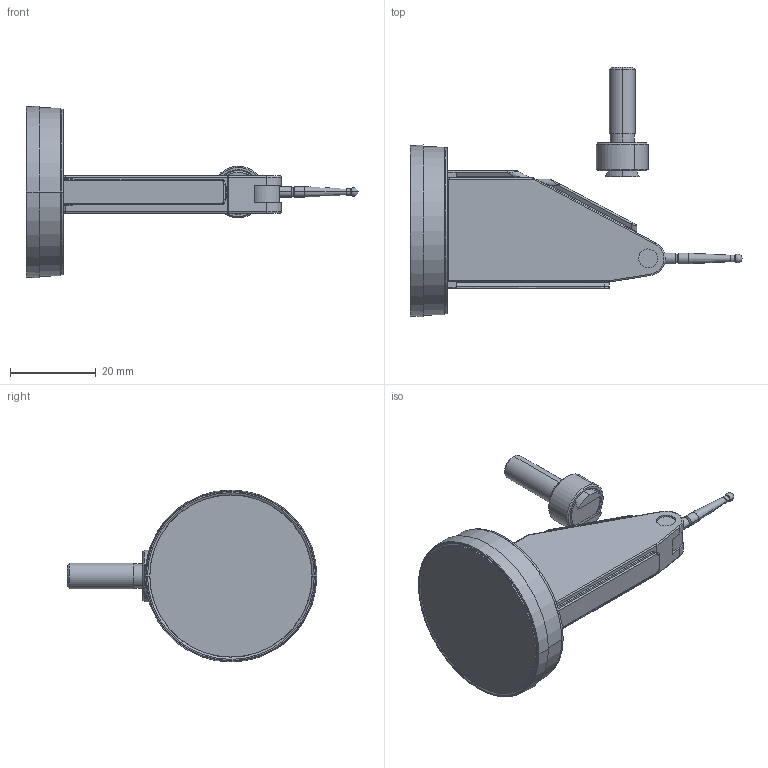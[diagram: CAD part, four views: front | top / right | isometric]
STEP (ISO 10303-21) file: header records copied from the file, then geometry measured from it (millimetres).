
FILE_DESCRIPTION(('Creo Elements/Direct Modeling STEP Export'),'2;1');
FILE_NAME('513-454-10H_TI-213HX.stp','2020-03-26T13:19:50',(''),(''),'Creo Elements/Direct Modeling STEP processor for AP214 (Solid Model)','Creo Elements/Direct Modeling 18.1I 13-Aug-2016 (C) Parametric Technology GmbH','');
FILE_SCHEMA(('AUTOMOTIVE_DESIGN { 1 0 10303 214 1 1 1 1 }'));
Length unit declared in the file: millimetre
Products named in the file (4): 513-454-10; nut_190322; stem_21CAB103; 513-454-10H
Assembly tree (3 placements, depth 2):
  513-454-10H
    stem_21CAB103
    nut_190322
    513-454-10
Bounding box: 77.23 x 58.12 x 40 mm (x, y, z)
Volume: 20717.1 mm3; surface area: 8646.5 mm2
Topology: 3 solids, 3 shells, 198 faces, 455 edges, 272 vertices
Faces by surface type: cylinder 74, plane 50, cone 32, bspline 22, torus 18, sphere 2
Entity records: 12756 total; most frequent: CARTESIAN_POINT 8612, ORIENTED_EDGE 906, DIRECTION 780, EDGE_CURVE 453, AXIS2_PLACEMENT_3D 298, VERTEX_POINT 272, EDGE_LOOP 211, FACE_OUTER_BOUND 198
